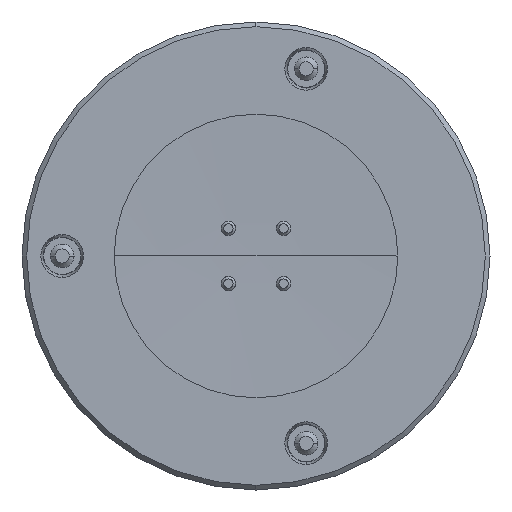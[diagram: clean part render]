
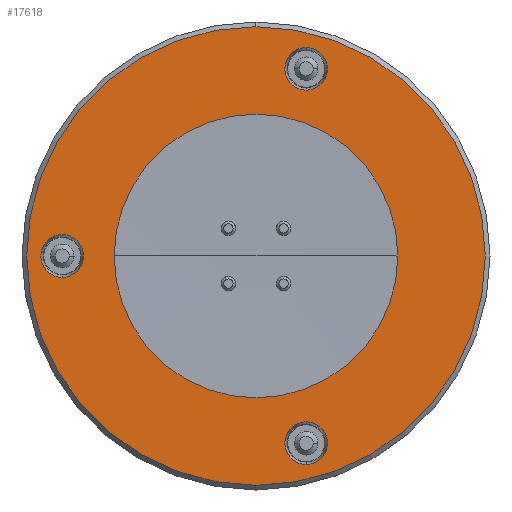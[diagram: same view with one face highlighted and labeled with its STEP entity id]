
A CAD part, left-side view. The second image highlights one B-rep face of the part: STEP entity #17618.
In plain terms, the highlighted planar face has unit normal (-1, 0, 0).
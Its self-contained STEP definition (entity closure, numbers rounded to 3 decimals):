
#2175=CARTESIAN_POINT('',(-12.5,0.,0.));
#2176=DIRECTION('',(1.,0.,0.));
#2177=DIRECTION('',(0.,0.,-1.));
#2178=AXIS2_PLACEMENT_3D('',#2175,#2176,#2177);
#2180=CARTESIAN_POINT('',(-12.5,0.,0.));
#2181=DIRECTION('',(1.,0.,0.));
#2182=DIRECTION('',(0.,1.,0.));
#2183=AXIS2_PLACEMENT_3D('',#2180,#2181,#2182);
#2185=CARTESIAN_POINT('',(-12.5,0.,0.));
#2186=DIRECTION('',(1.,0.,0.));
#2187=DIRECTION('',(0.,0.,1.));
#2188=AXIS2_PLACEMENT_3D('',#2185,#2186,#2187);
#2190=CARTESIAN_POINT('',(-12.5,0.,0.));
#2191=DIRECTION('',(1.,0.,0.));
#2192=DIRECTION('',(0.,-1.,0.));
#2193=AXIS2_PLACEMENT_3D('',#2190,#2191,#2192);
#2195=CARTESIAN_POINT('',(-12.5,0.,0.));
#2196=DIRECTION('',(-1.,0.,0.));
#2197=DIRECTION('',(0.,0.,-1.));
#2198=AXIS2_PLACEMENT_3D('',#2195,#2196,#2197);
#2200=CARTESIAN_POINT('',(-12.5,0.,0.));
#2201=DIRECTION('',(-1.,0.,0.));
#2202=DIRECTION('',(0.,0.,1.));
#2203=AXIS2_PLACEMENT_3D('',#2200,#2201,#2202);
#2205=CARTESIAN_POINT('',(-12.5,4.1,0.));
#2206=DIRECTION('',(-1.,0.,0.));
#2207=DIRECTION('',(0.,0.,1.));
#2208=AXIS2_PLACEMENT_3D('',#2205,#2206,#2207);
#2210=CARTESIAN_POINT('',(-12.5,4.1,0.));
#2211=DIRECTION('',(-1.,0.,0.));
#2212=DIRECTION('',(0.,1.,0.));
#2213=AXIS2_PLACEMENT_3D('',#2210,#2211,#2212);
#2215=CARTESIAN_POINT('',(-12.5,4.1,0.));
#2216=DIRECTION('',(-1.,0.,0.));
#2217=DIRECTION('',(0.,0.,-1.));
#2218=AXIS2_PLACEMENT_3D('',#2215,#2216,#2217);
#2220=CARTESIAN_POINT('',(-12.5,4.1,0.));
#2221=DIRECTION('',(-1.,0.,0.));
#2222=DIRECTION('',(0.,-1.,0.));
#2223=AXIS2_PLACEMENT_3D('',#2220,#2221,#2222);
#2225=CARTESIAN_POINT('',(-12.5,-1.061,-3.96));
#2226=DIRECTION('',(-1.,0.,0.));
#2227=DIRECTION('',(0.,0.,1.));
#2228=AXIS2_PLACEMENT_3D('',#2225,#2226,#2227);
#2230=CARTESIAN_POINT('',(-12.5,-1.061,-3.96));
#2231=DIRECTION('',(-1.,0.,0.));
#2232=DIRECTION('',(0.,1.,0.));
#2233=AXIS2_PLACEMENT_3D('',#2230,#2231,#2232);
#2235=CARTESIAN_POINT('',(-12.5,-1.061,-3.96));
#2236=DIRECTION('',(-1.,0.,0.));
#2237=DIRECTION('',(0.,0.,-1.));
#2238=AXIS2_PLACEMENT_3D('',#2235,#2236,#2237);
#2240=CARTESIAN_POINT('',(-12.5,-1.061,-3.96));
#2241=DIRECTION('',(-1.,0.,0.));
#2242=DIRECTION('',(0.,-1.,0.));
#2243=AXIS2_PLACEMENT_3D('',#2240,#2241,#2242);
#2245=CARTESIAN_POINT('',(-12.5,-1.061,3.96));
#2246=DIRECTION('',(-1.,0.,0.));
#2247=DIRECTION('',(0.,0.,1.));
#2248=AXIS2_PLACEMENT_3D('',#2245,#2246,#2247);
#2250=CARTESIAN_POINT('',(-12.5,-1.061,3.96));
#2251=DIRECTION('',(-1.,0.,0.));
#2252=DIRECTION('',(0.,1.,0.));
#2253=AXIS2_PLACEMENT_3D('',#2250,#2251,#2252);
#2255=CARTESIAN_POINT('',(-12.5,-1.061,3.96));
#2256=DIRECTION('',(-1.,0.,0.));
#2257=DIRECTION('',(0.,0.,-1.));
#2258=AXIS2_PLACEMENT_3D('',#2255,#2256,#2257);
#2260=CARTESIAN_POINT('',(-12.5,-1.061,3.96));
#2261=DIRECTION('',(-1.,0.,0.));
#2262=DIRECTION('',(0.,-1.,0.));
#2263=AXIS2_PLACEMENT_3D('',#2260,#2261,#2262);
#6176=CARTESIAN_POINT('',(-12.5,-4.85,0.));
#6177=CARTESIAN_POINT('',(-12.5,0.,-4.85));
#6178=VERTEX_POINT('',#6176);
#6179=VERTEX_POINT('',#6177);
#6180=CARTESIAN_POINT('',(-12.5,0.,4.85));
#6181=VERTEX_POINT('',#6180);
#6182=CARTESIAN_POINT('',(-12.5,4.85,0.));
#6183=VERTEX_POINT('',#6182);
#6184=CARTESIAN_POINT('',(-12.5,0.,-3.));
#6185=CARTESIAN_POINT('',(-12.5,0.,3.));
#6186=VERTEX_POINT('',#6184);
#6187=VERTEX_POINT('',#6185);
#6188=CARTESIAN_POINT('',(-12.5,4.551,0.));
#6189=CARTESIAN_POINT('',(-12.5,4.1,-0.451));
#6190=VERTEX_POINT('',#6188);
#6191=VERTEX_POINT('',#6189);
#6192=CARTESIAN_POINT('',(-12.5,4.1,0.451));
#6193=VERTEX_POINT('',#6192);
#6194=CARTESIAN_POINT('',(-12.5,3.649,0.));
#6195=VERTEX_POINT('',#6194);
#6196=CARTESIAN_POINT('',(-12.5,-0.61,-3.96));
#6197=CARTESIAN_POINT('',(-12.5,-1.061,-4.411));
#6198=VERTEX_POINT('',#6196);
#6199=VERTEX_POINT('',#6197);
#6200=CARTESIAN_POINT('',(-12.5,-1.061,-3.509));
#6201=VERTEX_POINT('',#6200);
#6202=CARTESIAN_POINT('',(-12.5,-1.512,-3.96));
#6203=VERTEX_POINT('',#6202);
#6204=CARTESIAN_POINT('',(-12.5,-0.61,3.96));
#6205=CARTESIAN_POINT('',(-12.5,-1.061,3.509));
#6206=VERTEX_POINT('',#6204);
#6207=VERTEX_POINT('',#6205);
#6208=CARTESIAN_POINT('',(-12.5,-1.061,4.411));
#6209=VERTEX_POINT('',#6208);
#6210=CARTESIAN_POINT('',(-12.5,-1.512,3.96));
#6211=VERTEX_POINT('',#6210);
#17569=CARTESIAN_POINT('',(-12.5,0.,0.));
#17570=DIRECTION('',(1.,0.,0.));
#17571=DIRECTION('',(0.,0.,-1.));
#17572=AXIS2_PLACEMENT_3D('',#17569,#17570,#17571);
#17573=PLANE('',#17572);
#17575=ORIENTED_EDGE('',*,*,#17574,.T.);
#17577=ORIENTED_EDGE('',*,*,#17576,.T.);
#17578=ORIENTED_EDGE('',*,*,#17551,.T.);
#17579=ORIENTED_EDGE('',*,*,#17549,.T.);
#17580=EDGE_LOOP('',(#17575,#17577,#17578,#17579));
#17581=FACE_OUTER_BOUND('',#17580,.F.);
#17583=ORIENTED_EDGE('',*,*,#17582,.T.);
#17585=ORIENTED_EDGE('',*,*,#17584,.T.);
#17586=EDGE_LOOP('',(#17583,#17585));
#17587=FACE_BOUND('',#17586,.F.);
#17589=ORIENTED_EDGE('',*,*,#17588,.T.);
#17591=ORIENTED_EDGE('',*,*,#17590,.T.);
#17593=ORIENTED_EDGE('',*,*,#17592,.T.);
#17595=ORIENTED_EDGE('',*,*,#17594,.T.);
#17596=EDGE_LOOP('',(#17589,#17591,#17593,#17595));
#17597=FACE_BOUND('',#17596,.F.);
#17599=ORIENTED_EDGE('',*,*,#17598,.T.);
#17601=ORIENTED_EDGE('',*,*,#17600,.T.);
#17603=ORIENTED_EDGE('',*,*,#17602,.T.);
#17605=ORIENTED_EDGE('',*,*,#17604,.T.);
#17606=EDGE_LOOP('',(#17599,#17601,#17603,#17605));
#17607=FACE_BOUND('',#17606,.F.);
#17609=ORIENTED_EDGE('',*,*,#17608,.T.);
#17611=ORIENTED_EDGE('',*,*,#17610,.T.);
#17613=ORIENTED_EDGE('',*,*,#17612,.T.);
#17615=ORIENTED_EDGE('',*,*,#17614,.T.);
#17616=EDGE_LOOP('',(#17609,#17611,#17613,#17615));
#17617=FACE_BOUND('',#17616,.F.);
#2179=CIRCLE('',#2178,4.85);
#2184=CIRCLE('',#2183,4.85);
#2189=CIRCLE('',#2188,4.85);
#2194=CIRCLE('',#2193,4.85);
#2199=CIRCLE('',#2198,3.);
#2204=CIRCLE('',#2203,3.);
#2209=CIRCLE('',#2208,0.451);
#2214=CIRCLE('',#2213,0.451);
#2219=CIRCLE('',#2218,0.451);
#2224=CIRCLE('',#2223,0.451);
#2229=CIRCLE('',#2228,0.451);
#2234=CIRCLE('',#2233,0.451);
#2239=CIRCLE('',#2238,0.451);
#2244=CIRCLE('',#2243,0.451);
#2249=CIRCLE('',#2248,0.451);
#2254=CIRCLE('',#2253,0.451);
#2259=CIRCLE('',#2258,0.451);
#2264=CIRCLE('',#2263,0.451);
#17549=EDGE_CURVE('',#6178,#6179,#2194,.T.);
#17551=EDGE_CURVE('',#6181,#6178,#2189,.T.);
#17574=EDGE_CURVE('',#6179,#6183,#2179,.T.);
#17576=EDGE_CURVE('',#6183,#6181,#2184,.T.);
#17582=EDGE_CURVE('',#6186,#6187,#2199,.T.);
#17584=EDGE_CURVE('',#6187,#6186,#2204,.T.);
#17588=EDGE_CURVE('',#6193,#6190,#2209,.T.);
#17590=EDGE_CURVE('',#6190,#6191,#2214,.T.);
#17592=EDGE_CURVE('',#6191,#6195,#2219,.T.);
#17594=EDGE_CURVE('',#6195,#6193,#2224,.T.);
#17598=EDGE_CURVE('',#6201,#6198,#2229,.T.);
#17600=EDGE_CURVE('',#6198,#6199,#2234,.T.);
#17602=EDGE_CURVE('',#6199,#6203,#2239,.T.);
#17604=EDGE_CURVE('',#6203,#6201,#2244,.T.);
#17608=EDGE_CURVE('',#6209,#6206,#2249,.T.);
#17610=EDGE_CURVE('',#6206,#6207,#2254,.T.);
#17612=EDGE_CURVE('',#6207,#6211,#2259,.T.);
#17614=EDGE_CURVE('',#6211,#6209,#2264,.T.);
#17618=ADVANCED_FACE('',(#17581,#17587,#17597,#17607,#17617),#17573,.F.);
